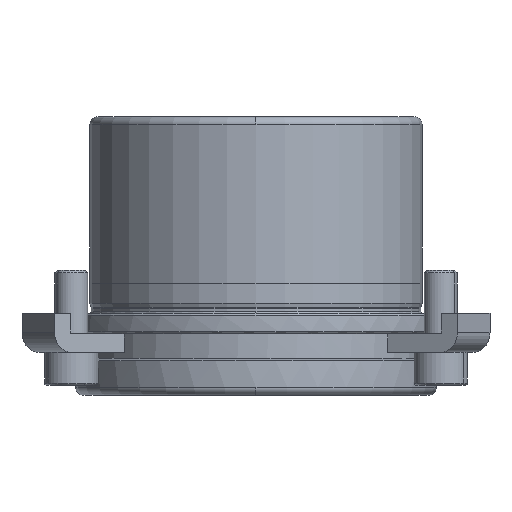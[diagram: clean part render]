
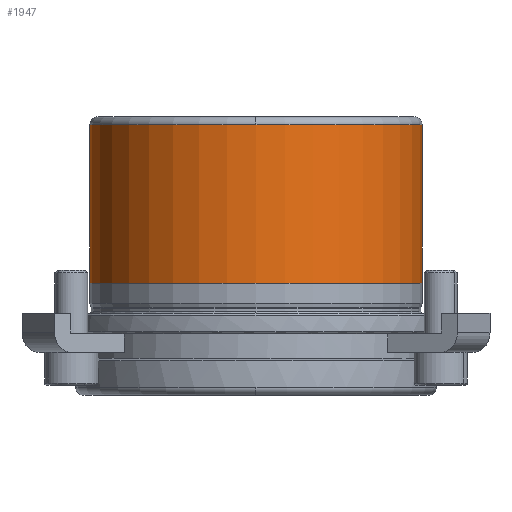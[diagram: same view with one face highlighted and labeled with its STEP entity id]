
A CAD part, front view. The second image highlights one B-rep face of the part: STEP entity #1947.
In plain terms, the highlighted cylindrical face has radius 40.495 mm (diameter 80.99 mm), a partial arc.
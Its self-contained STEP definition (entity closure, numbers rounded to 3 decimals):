
#1102=CARTESIAN_POINT('',(40.495,0.,7.4));
#1103=VERTEX_POINT('',#1102);
#1104=CARTESIAN_POINT('',(40.495,0.,46.0));
#1105=VERTEX_POINT('',#1104);
#1106=CARTESIAN_POINT('',(40.495,0.,7.4));
#1107=DIRECTION('',(0.0,0.0,1.0));
#1108=VECTOR('',#1107,38.6);
#1109=LINE('',#1106,#1108);
#1110=EDGE_CURVE('',#1103,#1105,#1109,.T.);
#1112=CARTESIAN_POINT('',(-40.495,0.,7.4));
#1113=VERTEX_POINT('',#1112);
#1121=CARTESIAN_POINT('',(-40.495,0.,46.0));
#1122=VERTEX_POINT('',#1121);
#1123=CARTESIAN_POINT('',(-40.495,0.,7.4));
#1124=DIRECTION('',(0.0,0.0,1.0));
#1125=VECTOR('',#1124,38.6);
#1126=LINE('',#1123,#1125);
#1127=EDGE_CURVE('',#1113,#1122,#1126,.T.);
#1163=CARTESIAN_POINT('',(0.,-40.495,46.0));
#1164=VERTEX_POINT('',#1163);
#1165=CARTESIAN_POINT('',(0.0,0.,46.0));
#1166=DIRECTION('',(0.0,0.0,-1.0));
#1167=DIRECTION('',(1.0,0.0,0.0));
#1168=AXIS2_PLACEMENT_3D('',#1165,#1166,#1167);
#1169=CIRCLE('',#1168,40.495);
#1170=EDGE_CURVE('',#1164,#1122,#1169,.T.);
#1918=CARTESIAN_POINT('',(0.0,0.,46.0));
#1919=DIRECTION('',(0.0,0.0,-1.0));
#1920=DIRECTION('',(1.0,0.0,0.0));
#1921=AXIS2_PLACEMENT_3D('',#1918,#1919,#1920);
#1922=CIRCLE('',#1921,40.495);
#1923=EDGE_CURVE('',#1105,#1164,#1922,.T.);
#1929=CARTESIAN_POINT('',(0.0,0.,26.7));
#1930=DIRECTION('',(0.0,0.,-1.0));
#1931=DIRECTION('',(1.0,0.0,0.0));
#1932=AXIS2_PLACEMENT_3D('',#1929,#1930,#1931);
#1933=CYLINDRICAL_SURFACE('',#1932,40.495);
#1934=ORIENTED_EDGE('',*,*,#1110,.T.);
#1935=ORIENTED_EDGE('',*,*,#1923,.T.);
#1936=ORIENTED_EDGE('',*,*,#1170,.T.);
#1937=ORIENTED_EDGE('',*,*,#1127,.F.);
#1938=CARTESIAN_POINT('',(0.0,0.,7.4));
#1939=DIRECTION('',(0.0,0.0,-1.0));
#1940=DIRECTION('',(1.0,0.0,0.0));
#1941=AXIS2_PLACEMENT_3D('',#1938,#1939,#1940);
#1942=CIRCLE('',#1941,40.495);
#1943=EDGE_CURVE('',#1103,#1113,#1942,.T.);
#1944=ORIENTED_EDGE('',*,*,#1943,.F.);
#1945=EDGE_LOOP('',(#1934,#1935,#1936,#1937,#1944));
#1946=FACE_OUTER_BOUND('',#1945,.T.);
#1947=ADVANCED_FACE('',(#1946),#1933,.T.);
